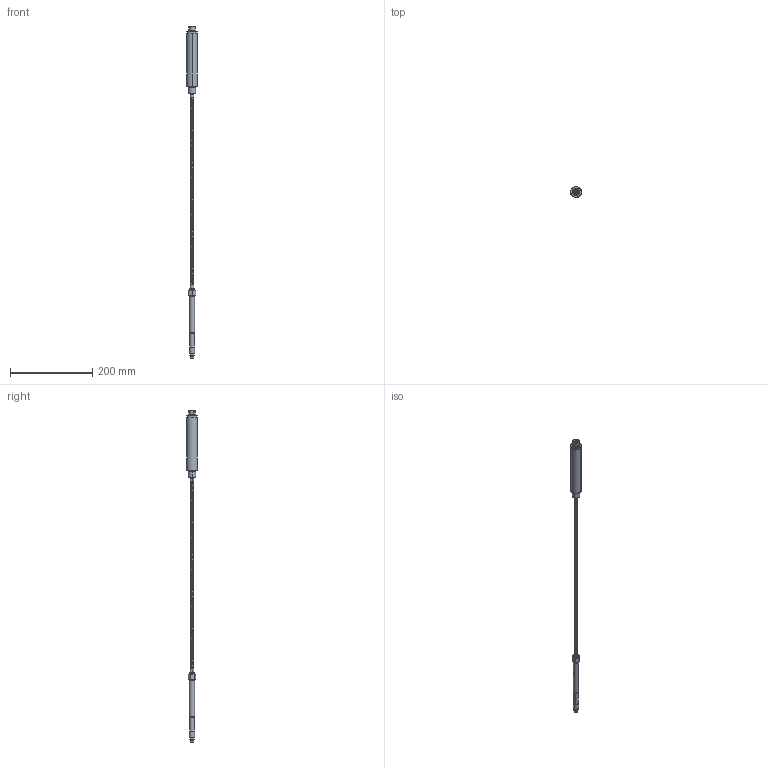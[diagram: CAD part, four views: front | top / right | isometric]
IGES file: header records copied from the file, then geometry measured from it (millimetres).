
Start section: SolidWorks IGES file using analytic representation for surfaces
Global section: file name: C:\Users\daniele.peli\Desktop\KE1-7-x-xxxx-1-4-D-x-P-E.IGS; native system: SolidWorks 2021; preprocessor: SolidWorks 2021; author: daniele.peli; date: 210210.101722; units: millimetre
Bounding box: 26.5 x 26.5 x 808.27 mm (x, y, z)
Surface area: 33977.3 mm2 (no closed solid volume)
Topology: 0 solids, 0 shells, 298 faces, 7370 edges, 7370 vertices
Faces by surface type: revolution 245, bspline 53
